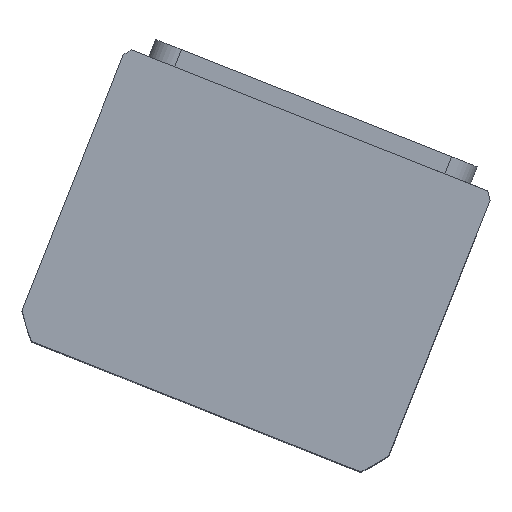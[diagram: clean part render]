
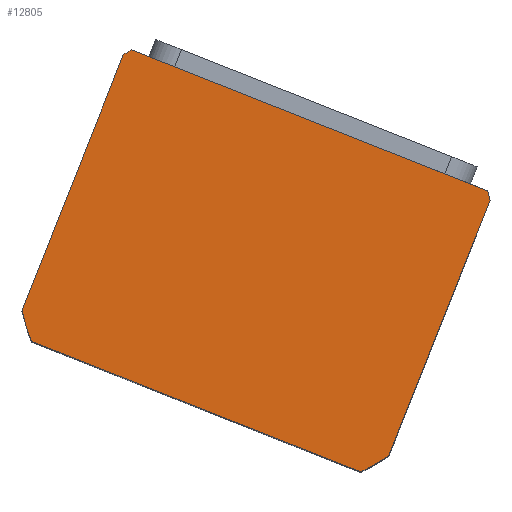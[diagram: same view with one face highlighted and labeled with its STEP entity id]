
A CAD part, top view. The second image highlights one B-rep face of the part: STEP entity #12805.
In plain terms, the highlighted planar face has unit normal (0, 0, 1) as drawn and (0, 0, -1) by its records, which use the part's own axes.
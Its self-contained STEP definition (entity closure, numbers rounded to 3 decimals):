
#134 = LINE ( 'NONE', #5661, #9578 ) ;
#793 = ORIENTED_EDGE ( 'NONE', *, *, #5699, .F. ) ;
#846 = AXIS2_PLACEMENT_3D ( 'NONE', #8959, #21341, #10746 ) ;
#1129 = VERTEX_POINT ( 'NONE', #19581 ) ;
#1186 = DIRECTION ( 'NONE',  ( 0., 0., 1. ) ) ;
#1482 = EDGE_CURVE ( 'NONE', #12751, #22479, #16025, .T. ) ;
#2715 = CARTESIAN_POINT ( 'NONE',  ( -51.198, -44.5, 0. ) ) ;
#2861 = ORIENTED_EDGE ( 'NONE', *, *, #17465, .F. ) ;
#3917 = DIRECTION ( 'NONE',  ( 0., -1., 0. ) ) ;
#4197 = VERTEX_POINT ( 'NONE', #11677 ) ;
#4453 = VERTEX_POINT ( 'NONE', #2715 ) ;
#4749 = ORIENTED_EDGE ( 'NONE', *, *, #20156, .F. ) ;
#4764 = AXIS2_PLACEMENT_3D ( 'NONE', #14678, #7629, #20021 ) ;
#4974 = VECTOR ( 'NONE', #9049, 1000. ) ;
#5661 = CARTESIAN_POINT ( 'NONE',  ( -57., 44.5, 0. ) ) ;
#5699 = EDGE_CURVE ( 'NONE', #22479, #4197, #9679, .T. ) ;
#5967 = DIRECTION ( 'NONE',  ( 0., 0., 1. ) ) ;
#6021 = ORIENTED_EDGE ( 'NONE', *, *, #17072, .F. ) ;
#6418 = CARTESIAN_POINT ( 'NONE',  ( -57., 42.265, 0. ) ) ;
#6757 = CARTESIAN_POINT ( 'NONE',  ( 0., 2.5, 0. ) ) ;
#7023 = CARTESIAN_POINT ( 'NONE',  ( 57., -37.265, 0. ) ) ;
#7629 = DIRECTION ( 'NONE',  ( 0., 0., 1. ) ) ;
#7749 = VECTOR ( 'NONE', #20264, 1000. ) ;
#7946 = AXIS2_PLACEMENT_3D ( 'NONE', #6757, #19123, #8539 ) ;
#7964 = ORIENTED_EDGE ( 'NONE', *, *, #1482, .F. ) ;
#8259 = EDGE_CURVE ( 'NONE', #1129, #11969, #8693, .T. ) ;
#8475 = AXIS2_PLACEMENT_3D ( 'NONE', #11792, #1186, #13566 ) ;
#8539 = DIRECTION ( 'NONE',  ( 1., 0., 0. ) ) ;
#8693 = CIRCLE ( 'NONE', #846, 69.5 ) ;
#8959 = CARTESIAN_POINT ( 'NONE',  ( 0., 2.5, 0. ) ) ;
#9049 = DIRECTION ( 'NONE',  ( 0., 1., 0. ) ) ;
#9362 = VERTEX_POINT ( 'NONE', #9422 ) ;
#9422 = CARTESIAN_POINT ( 'NONE',  ( 55.374, 44.5, 0. ) ) ;
#9578 = VECTOR ( 'NONE', #21680, 1000. ) ;
#9670 = CARTESIAN_POINT ( 'NONE',  ( -57., -44.5, 0. ) ) ;
#9679 = LINE ( 'NONE', #16222, #4974 ) ;
#10746 = DIRECTION ( 'NONE',  ( 1., 0., 0. ) ) ;
#11128 = CARTESIAN_POINT ( 'NONE',  ( 51.198, -44.5, 0. ) ) ;
#11512 = CIRCLE ( 'NONE', #8475, 69.5 ) ;
#11677 = CARTESIAN_POINT ( 'NONE',  ( 57., 42.265, 0. ) ) ;
#11792 = CARTESIAN_POINT ( 'NONE',  ( 0., 2.5, 0. ) ) ;
#11824 = EDGE_LOOP ( 'NONE', ( #2861, #793, #7964, #4749, #20512, #15579, #11971, #6021 ) ) ;
#11969 = VERTEX_POINT ( 'NONE', #6418 ) ;
#11971 = ORIENTED_EDGE ( 'NONE', *, *, #8259, .F. ) ;
#12688 = EDGE_CURVE ( 'NONE', #11969, #18562, #14196, .T. ) ;
#12751 = VERTEX_POINT ( 'NONE', #11128 ) ;
#12805 = ADVANCED_FACE ( 'NONE', ( #20990 ), #16441, .F. ) ;
#13460 = CIRCLE ( 'NONE', #15289, 69.5 ) ;
#13566 = DIRECTION ( 'NONE',  ( 1., 0., 0. ) ) ;
#14196 = LINE ( 'NONE', #14526, #16398 ) ;
#14526 = CARTESIAN_POINT ( 'NONE',  ( -57., 44.5, 0. ) ) ;
#14678 = CARTESIAN_POINT ( 'NONE',  ( 0., 0., 0. ) ) ;
#15289 = AXIS2_PLACEMENT_3D ( 'NONE', #16556, #5967, #18340 ) ;
#15579 = ORIENTED_EDGE ( 'NONE', *, *, #12688, .F. ) ;
#16025 = CIRCLE ( 'NONE', #7946, 69.5 ) ;
#16043 = CARTESIAN_POINT ( 'NONE',  ( -57., -37.265, 0. ) ) ;
#16222 = CARTESIAN_POINT ( 'NONE',  ( 57., 44.5, 0. ) ) ;
#16398 = VECTOR ( 'NONE', #3917, 1000. ) ;
#16434 = EDGE_CURVE ( 'NONE', #18562, #4453, #13460, .T. ) ;
#16441 = PLANE ( 'NONE',  #4764 ) ;
#16556 = CARTESIAN_POINT ( 'NONE',  ( 0., 2.5, 0. ) ) ;
#16595 = LINE ( 'NONE', #9670, #7749 ) ;
#17072 = EDGE_CURVE ( 'NONE', #9362, #1129, #134, .T. ) ;
#17465 = EDGE_CURVE ( 'NONE', #4197, #9362, #11512, .T. ) ;
#18340 = DIRECTION ( 'NONE',  ( 1., 0., 0. ) ) ;
#18562 = VERTEX_POINT ( 'NONE', #16043 ) ;
#19123 = DIRECTION ( 'NONE',  ( 0., 0., 1. ) ) ;
#19581 = CARTESIAN_POINT ( 'NONE',  ( -55.374, 44.5, 0. ) ) ;
#20021 = DIRECTION ( 'NONE',  ( 1., 0., 0. ) ) ;
#20156 = EDGE_CURVE ( 'NONE', #4453, #12751, #16595, .T. ) ;
#20264 = DIRECTION ( 'NONE',  ( 1., 0., 0. ) ) ;
#20512 = ORIENTED_EDGE ( 'NONE', *, *, #16434, .F. ) ;
#20990 = FACE_OUTER_BOUND ( 'NONE', #11824, .T. ) ;
#21341 = DIRECTION ( 'NONE',  ( 0., 0., 1. ) ) ;
#21680 = DIRECTION ( 'NONE',  ( -1., 0., 0. ) ) ;
#22479 = VERTEX_POINT ( 'NONE', #7023 ) ;
